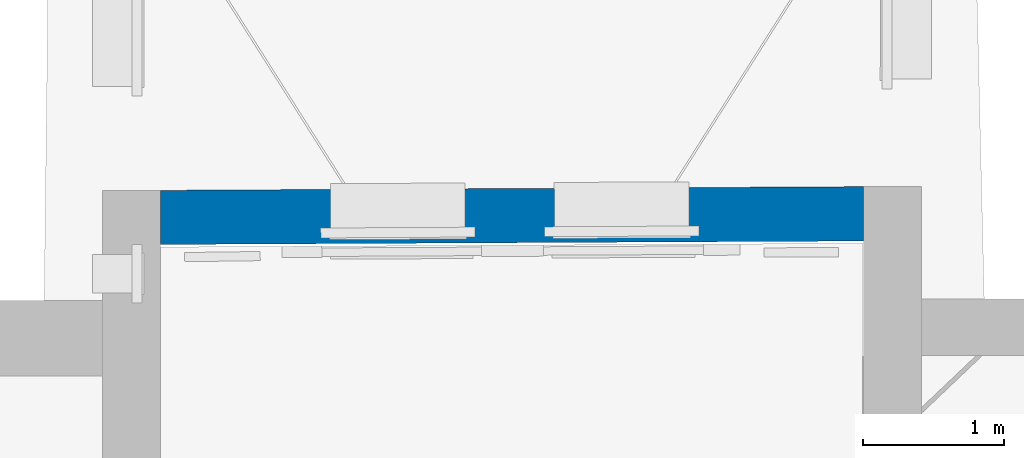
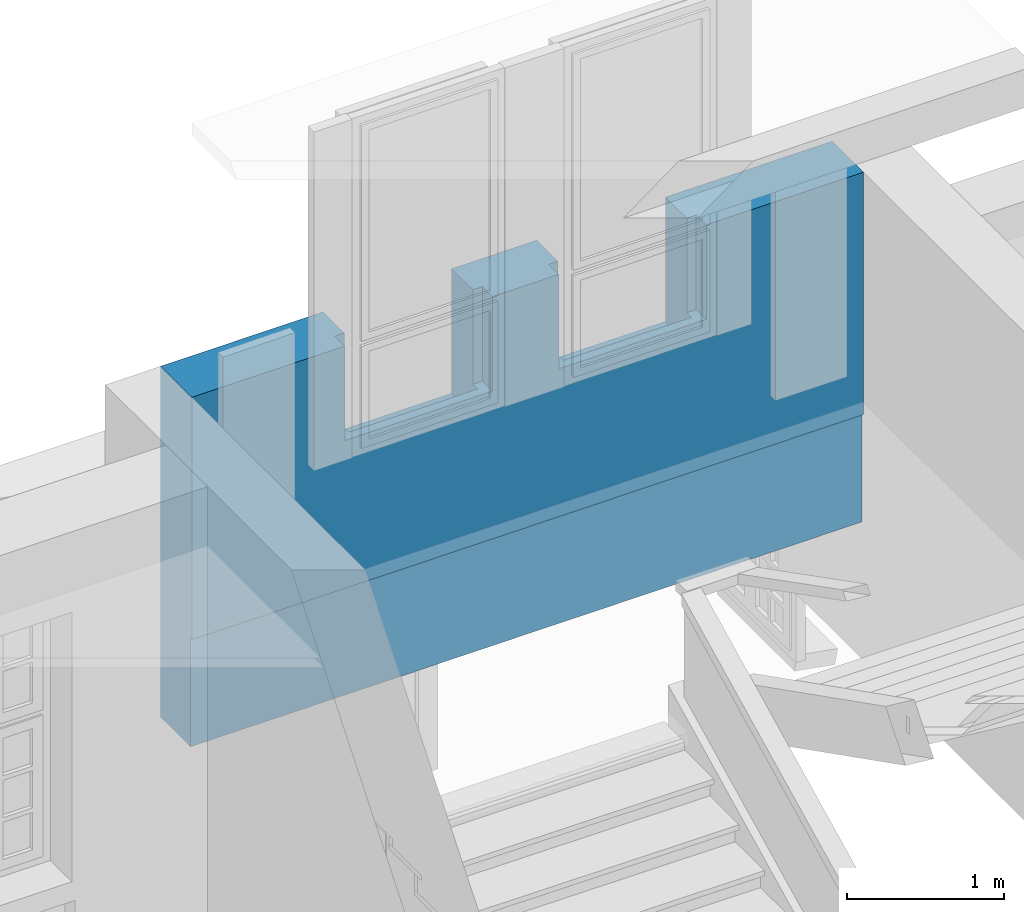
# One storey, part 56 of 158: 1 wall, 2 openings.
"""IFC2X3 building model written with IfcOpenShell, lengths in metres."""

from ifc_helpers import new_model, entity, si_unit, converted_unit, derived_unit, money_unit, direction, frame, origin_with_axes, origin_2d_with_axis, place, context, subcontext, project, spatial, polyline, rectangle, outline, extrude, boolean, faceted_brep, material, type_object, element, save


model = new_model("IFC2X3")

# Units and contexts
model_context = context("Model", 3, precision=1e-05, world=origin_with_axes(), true_north=direction((0.0, 1.0)))
body_context = subcontext(model_context, "Body", "Model", "MODEL_VIEW")
ifc_project = project(units=[si_unit("LENGTHUNIT", "METRE"), si_unit("AREAUNIT", "SQUARE_METRE"), si_unit("VOLUMEUNIT", "CUBIC_METRE"), converted_unit("PLANEANGLEUNIT", "DEGREE", entity("IfcPlaneAngleMeasure", 0.0174532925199), si_unit("PLANEANGLEUNIT", "RADIAN"), dimensions=[0, 0, 0, 0, 0, 0, 0]), money_unit("EUR"), converted_unit("TIMEUNIT", "Year", entity("IfcTimeMeasure", 31556926.0), si_unit("TIMEUNIT", "SECOND"), dimensions=[0, 0, 1, 0, 0, 0, 0]), si_unit("MASSUNIT", "GRAM", prefix="KILO"), si_unit("THERMODYNAMICTEMPERATUREUNIT", "DEGREE_CELSIUS"), si_unit("LUMINOUSINTENSITYUNIT", "LUMEN"), si_unit("ENERGYUNIT", "JOULE", prefix="MEGA"), derived_unit("THERMALCONDUCTANCEUNIT", [(si_unit("POWERUNIT", "WATT"), 1), (si_unit("LENGTHUNIT", "METRE"), -1), (si_unit("THERMODYNAMICTEMPERATUREUNIT", "KELVIN"), -1)]), derived_unit("SPECIFICHEATCAPACITYUNIT", [(si_unit("ENERGYUNIT", "JOULE"), 1), (si_unit("MASSUNIT", "GRAM", prefix="KILO"), -1), (si_unit("THERMODYNAMICTEMPERATUREUNIT", "KELVIN"), -1)]), derived_unit("MASSDENSITYUNIT", [(si_unit("MASSUNIT", "GRAM", prefix="KILO"), 1), (si_unit("VOLUMEUNIT", "CUBIC_METRE"), -1)])], contexts=[model_context])

# Site, building, storey
site_placement = place(None, origin_with_axes())
site = spatial("IfcSite", under=ifc_project, at=site_placement, Name="Gelände", CompositionType="ELEMENT")
building_placement = place(site_placement, origin_with_axes())
building = spatial("IfcBuilding", under=site, at=building_placement, Name="Gebäude", CompositionType="ELEMENT")
storey_placement = place(building_placement, origin_with_axes())
storey = spatial("IfcBuildingStorey", under=building, at=storey_placement, Name="ERDGESCHOSS", CompositionType="ELEMENT", Elevation=0.0)

# Wall, openings
ifc_material = material(Name="05_ALLGEMEIN - TRAGENDE BAUTEILE")
wall_type = type_object("IfcWallType", Name="05_ALLGEMEIN - TRAGENDE BAUTEILE 400", PredefinedType="ELEMENTEDWALL")
wall_placement = place(storey_placement, frame((-4.46199488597, 26.8591208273, 0.86357708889), z_axis=(0.0, 0.0, 1.0), x_axis=(-0.999985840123, -0.00532161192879, 0.0)))
wall = element("IfcWall", 1, at=wall_placement, inside=storey, type_object=wall_type, material=ifc_material, Name="Wand-030", ObjectType="ELEMENTEDWALL", context=body_context, shape_type="CSG", body=[
    boolean("DIFFERENCE", extrude(outline(polyline([(0.0, 0.0), (5.79237102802, 0.0), (5.79237102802, 0.4), (0.0, 0.4), (0.0, 0.0)])), origin_with_axes(), (0.0, 0.0, 1.0), 2.73642291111), faceted_brep([(0.410006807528, 0.0, 0.0), (0.410006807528, 0.0, 2.73642291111), (0.0, 0.0, 2.73642291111), (0.0, 0.0, 0.0), (0.412311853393, 0.4, 2.73642291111), (0.412222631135, 0.384517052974, 0.0), (0.412222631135, 0.384517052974, 0.75642291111), (0.412222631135, 0.384517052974, 0.84642291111), (0.412311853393, 0.4, 0.84642291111), (0.0, 0.4, 2.73642291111), (0.0, 0.4, 0.0), (5.79237102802, 0.4, 0.0), (5.79237102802, 0.0, 0.0), (5.38027440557, 0.0, 0.0), (5.38227565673, 0.382827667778, 0.0), (5.38227565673, 0.382827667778, 0.75642291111), (5.38227565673, 0.382827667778, 0.84642291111), (5.38236542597, 0.4, 0.84642291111), (5.38236542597, 0.4, 2.73642291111), (5.79237102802, 0.4, 2.73642291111), (5.79237102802, 0.0, 2.73642291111), (5.38027440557, 0.0, 2.73642291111)], [[[0, 1, 2, 3]], [[4, 1, 0, 5, 6, 7, 8]], [[1, 4, 9, 2]], [[9, 10, 3, 2]], [[5, 0, 3, 10, 11, 12, 13, 14]], [[5, 14, 15, 16, 7, 6]], [[17, 8, 7, 16]], [[17, 18, 19, 11, 10, 9, 4, 8]], [[20, 12, 11, 19]], [[21, 13, 12, 20]], [[14, 13, 21, 18, 17, 16, 15]], [[18, 21, 20, 19]]])),
])
opening_1_placement = place(wall_placement, frame((2.12064882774, 0.0, 1.99961124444), z_axis=(0.0, 0.0, 1.0), x_axis=(1.0, 0.0, 0.0)))
element("IfcOpeningElement", 2, at=opening_1_placement, cuts=wall, Name="Fenster-015", context=body_context, shape_type="SweptSolid", body=[
    extrude(rectangle(XDim=0.951478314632, YDim=2.429223, at=origin_2d_with_axis()), frame((0.0, 0.271902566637, 1.2146115), z_axis=(0.0, -1.0, 0.0), x_axis=(-1.0, 0.0, 0.0)), (0.0, 0.0, 1.0), 0.671902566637),
    extrude(rectangle(XDim=1.09147831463, YDim=2.499223, at=origin_2d_with_axis()), frame((0.0, 0.271902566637, 1.2496115), z_axis=(0.0, 1.0, 0.0), x_axis=(-1.0, 0.0, 0.0)), (0.0, 0.0, 1.0), 0.528097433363),
    extrude(rectangle(XDim=0.951478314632, YDim=0.233945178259, at=origin_2d_with_axis()), frame((0.0, 0.332944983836, -0.116972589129), z_axis=(0.0, -1.0, 0.0), x_axis=(-1.0, 0.0, 0.0)), (0.0, 0.0, 1.0), 0.461042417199),
])
opening_2_placement = place(wall_placement, frame((3.70345295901, 0.0, 1.99961124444), z_axis=(0.0, 0.0, 1.0), x_axis=(1.0, 0.0, 0.0)))
element("IfcOpeningElement", 3, at=opening_2_placement, cuts=wall, Name="Fenster-015", context=body_context, shape_type="SweptSolid", body=[
    extrude(rectangle(XDim=0.951478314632, YDim=2.429223, at=origin_2d_with_axis()), frame((0.0, 0.271902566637, 1.2146115), z_axis=(0.0, -1.0, 0.0), x_axis=(-1.0, 0.0, 0.0)), (0.0, 0.0, 1.0), 0.671902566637),
    extrude(rectangle(XDim=1.09147831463, YDim=2.499223, at=origin_2d_with_axis()), frame((0.0, 0.271902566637, 1.2496115), z_axis=(0.0, 1.0, 0.0), x_axis=(-1.0, 0.0, 0.0)), (0.0, 0.0, 1.0), 0.528097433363),
    extrude(rectangle(XDim=0.951478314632, YDim=0.233945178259, at=origin_2d_with_axis()), frame((0.0, 0.332944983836, -0.116972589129), z_axis=(0.0, -1.0, 0.0), x_axis=(-1.0, 0.0, 0.0)), (0.0, 0.0, 1.0), 0.461042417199),
])

save(model, "model.ifc")
